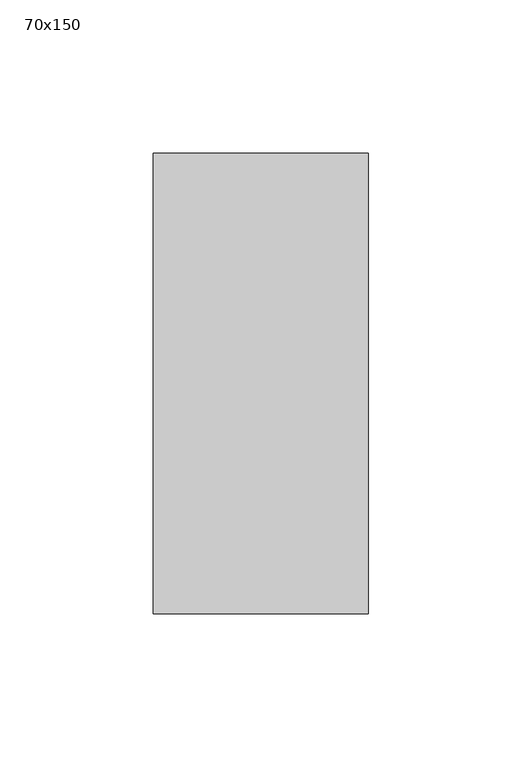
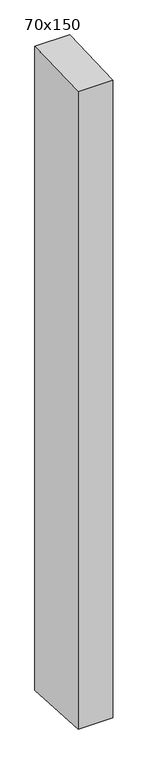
"""IFC4 building model written with IfcOpenShell, lengths in millimetres: member geometry, 長方形のマリオン : 70x150."""

from ifc_helpers import new_model, si_unit, frame, origin, place, context, project, spatial, polyline, outline, extrude, source, transform, mapped, element, save


def member_70x150_9f3e030a(model_context):
    return source(origin(), model_context, "Body", "SweptSolid", [
        extrude(outline(polyline([(-75.0, -2.6562149), (75.0, 2.6562149), (75.0, -1362.1881869), (-75.0, -1354.1439666), (-75.0, -2.6562149)])), frame((-70.0, 0.0, 0.0), z_axis=(1.0, 0.0, 0.0), x_axis=(0.0, 1.0, 0.0)), (0.0, 0.0, 1.0), 70.0),
    ])


if __name__ == "__main__":
    model = new_model("IFC4")
    model_context = context("Model", 3, world=origin())
    ifc_project = project(units=[si_unit("LENGTHUNIT", "METRE", prefix="MILLI")], contexts=[model_context])
    site = spatial("IfcSite", under=ifc_project)
    building = spatial("IfcBuilding", under=site)
    placement = place(None, origin())
    member_70x150_shape = member_70x150_9f3e030a(model_context)
    element("IfcMember", 1, ObjectType="長方形のマリオン : 70x150", at=placement, inside=building, context=model_context, shape_type="MappedRepresentation", body=[
        mapped(member_70x150_shape, transform((0.0, 0.0, 0.0), x_axis=(1.0, 0.0, 0.0), y_axis=(0.0, 1.0, 0.0), z_axis=(0.0, 0.0, 1.0))),
    ])
    save(model, "model.ifc")
